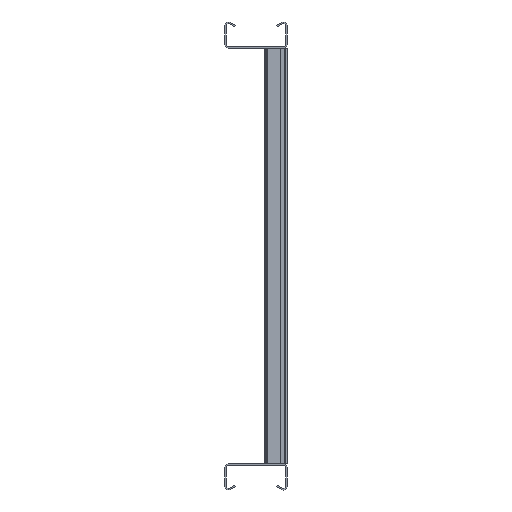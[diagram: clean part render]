
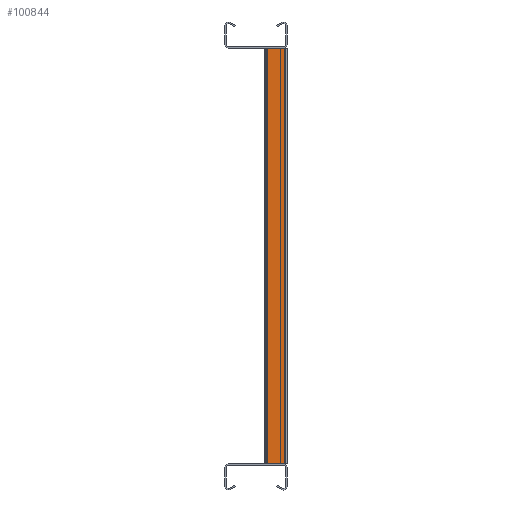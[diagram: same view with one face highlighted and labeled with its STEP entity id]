
A CAD part, left-side view. The second image highlights one B-rep face of the part: STEP entity #100844.
In plain terms, the highlighted planar face has unit normal (-1, 0, 0).
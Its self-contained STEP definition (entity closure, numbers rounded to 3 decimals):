
#4955=LINE('',#149884,#14963);
#4956=LINE('',#149886,#14964);
#4957=LINE('',#149888,#14965);
#4958=LINE('',#149889,#14966);
#14963=VECTOR('',#120094,10.);
#14964=VECTOR('',#120095,10.);
#14965=VECTOR('',#120096,10.);
#14966=VECTOR('',#120097,10.);
#22823=PLANE('',#106178);
#27196=FACE_OUTER_BOUND('',#32816,.T.);
#32816=EDGE_LOOP('',(#73885,#73886,#73887,#73888));
#43159=VERTEX_POINT('',#149879);
#43160=VERTEX_POINT('',#149883);
#43161=VERTEX_POINT('',#149885);
#43162=VERTEX_POINT('',#149887);
#54510=EDGE_CURVE('',#43160,#43159,#4955,.T.);
#54511=EDGE_CURVE('',#43161,#43160,#4956,.T.);
#54512=EDGE_CURVE('',#43161,#43162,#4957,.T.);
#54513=EDGE_CURVE('',#43159,#43162,#4958,.T.);
#73885=ORIENTED_EDGE('',*,*,#54510,.F.);
#73886=ORIENTED_EDGE('',*,*,#54511,.F.);
#73887=ORIENTED_EDGE('',*,*,#54512,.T.);
#73888=ORIENTED_EDGE('',*,*,#54513,.F.);
#100844=ADVANCED_FACE('',(#27196),#22823,.T.);
#106178=AXIS2_PLACEMENT_3D('',#149882,#120092,#120093);
#120092=DIRECTION('center_axis',(-1.,0.,0.));
#120093=DIRECTION('ref_axis',(0.,0.,
-1.));
#120094=DIRECTION('',(0.,0.,1.));
#120095=DIRECTION('',(0.,1.,0.));
#120096=DIRECTION('',(0.,0.,1.));
#120097=DIRECTION('',(0.,-1.,0.));
#149879=CARTESIAN_POINT('',(-2894.75,-11.,200.));
#149882=CARTESIAN_POINT('Origin',(-2894.75,9.143,0.));
#149883=CARTESIAN_POINT('',(-2894.75,-11.,-200.));
#149884=CARTESIAN_POINT('',(-2894.75,-11.,0.));
#149885=CARTESIAN_POINT('',(-2894.75,-27.,-200.));
#149886=CARTESIAN_POINT('',(-2894.75,56.822,-200.));
#149887=CARTESIAN_POINT('',(-2894.75,-27.,200.));
#149888=CARTESIAN_POINT('',(-2894.75,-27.,0.));
#149889=CARTESIAN_POINT('',(-2894.75,-41.536,200.));
